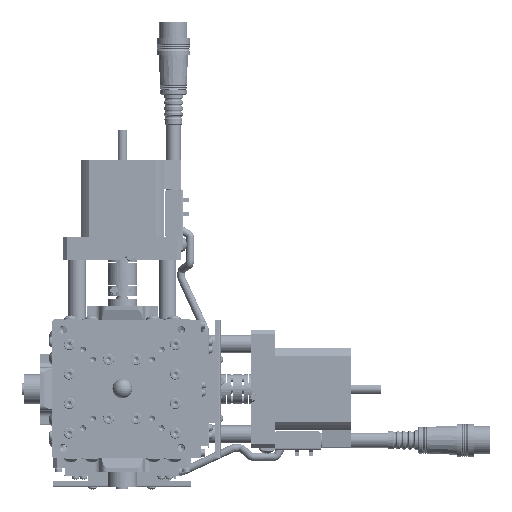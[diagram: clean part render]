
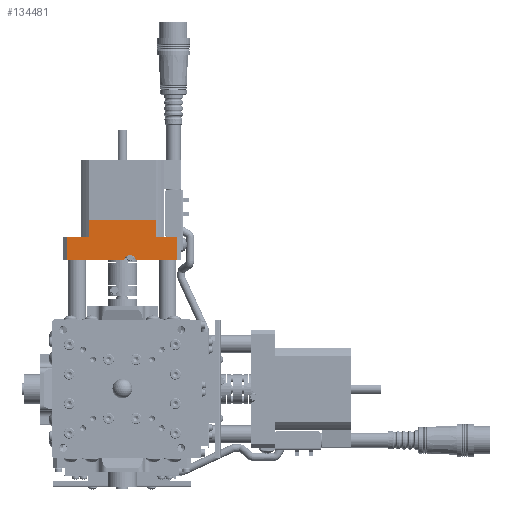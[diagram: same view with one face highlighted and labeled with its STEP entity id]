
A CAD part, top view. The second image highlights one B-rep face of the part: STEP entity #134481.
In plain terms, the highlighted planar face has unit normal (0, 0, 1).
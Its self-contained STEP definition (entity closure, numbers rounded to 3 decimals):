
#466 = LINE ( 'NONE', #97250, #4420 ) ;
#1448 = DIRECTION ( 'NONE',  ( -1., 0., 0. ) ) ;
#4420 = VECTOR ( 'NONE', #72349, 1000. ) ;
#10905 = EDGE_CURVE ( 'NONE', #79914, #13699, #123778, .T. ) ;
#10980 = CARTESIAN_POINT ( 'NONE',  ( -9.982, -8.029, 293.578 ) ) ;
#11169 = EDGE_CURVE ( 'NONE', #37691, #59744, #466, .T. ) ;
#11371 = EDGE_CURVE ( 'NONE', #37691, #54945, #47904, .T. ) ;
#11785 = FACE_OUTER_BOUND ( 'NONE', #45957, .T. ) ;
#13249 = DIRECTION ( 'NONE',  ( -1., 0., 0. ) ) ;
#13699 = VERTEX_POINT ( 'NONE', #54461 ) ;
#14104 = VECTOR ( 'NONE', #112998, 1000. ) ;
#18131 = ORIENTED_EDGE ( 'NONE', *, *, #69163, .T. ) ;
#23711 = CARTESIAN_POINT ( 'NONE',  ( -24.432, -25., 293.578 ) ) ;
#24069 = CARTESIAN_POINT ( 'NONE',  ( -30.432, -25., 293.578 ) ) ;
#27398 = DIRECTION ( 'NONE',  ( -1., 0., 0. ) ) ;
#29665 = VECTOR ( 'NONE', #136954, 1000. ) ;
#37691 = VERTEX_POINT ( 'NONE', #99945 ) ;
#38100 = CARTESIAN_POINT ( 'NONE',  ( -18.432, -41.971, 293.578 ) ) ;
#44021 = EDGE_CURVE ( 'NONE', #53866, #67649, #131054, .T. ) ;
#44455 = CARTESIAN_POINT ( 'NONE',  ( -18.432, -53., 293.578 ) ) ;
#45957 = EDGE_LOOP ( 'NONE', ( #146077, #99213, #60187, #18131, #139217, #144368, #46884, #144149, #162115, #160210 ) ) ;
#46884 = ORIENTED_EDGE ( 'NONE', *, *, #70789, .F. ) ;
#47904 = CIRCLE ( 'NONE', #156514, 3. ) ;
#53866 = VERTEX_POINT ( 'NONE', #38100 ) ;
#54461 = CARTESIAN_POINT ( 'NONE',  ( -18.432, -8.029, 293.578 ) ) ;
#54945 = VERTEX_POINT ( 'NONE', #137279 ) ;
#59744 = VERTEX_POINT ( 'NONE', #127011 ) ;
#60187 = ORIENTED_EDGE ( 'NONE', *, *, #87766, .F. ) ;
#63514 = VERTEX_POINT ( 'NONE', #112761 ) ;
#64467 = DIRECTION ( 'NONE',  ( 0., 0., -1. ) ) ;
#67649 = VERTEX_POINT ( 'NONE', #44455 ) ;
#69163 = EDGE_CURVE ( 'NONE', #162654, #67649, #118299, .T. ) ;
#70789 = EDGE_CURVE ( 'NONE', #108176, #63514, #113477, .T. ) ;
#72349 = DIRECTION ( 'NONE',  ( 0., 1., 0. ) ) ;
#73808 = DIRECTION ( 'NONE',  ( 0., 0., 1. ) ) ;
#74213 = CARTESIAN_POINT ( 'NONE',  ( -18.432, -25., 293.578 ) ) ;
#78659 = VECTOR ( 'NONE', #13249, 1000. ) ;
#79914 = VERTEX_POINT ( 'NONE', #92791 ) ;
#80525 = VECTOR ( 'NONE', #111736, 1000. ) ;
#87613 = PLANE ( 'NONE',  #92778 ) ;
#87766 = EDGE_CURVE ( 'NONE', #162654, #54945, #119570, .T. ) ;
#90164 = CARTESIAN_POINT ( 'NONE',  ( -9.982, -8.029, 293.578 ) ) ;
#92129 = VECTOR ( 'NONE', #27398, 1000. ) ;
#92778 = AXIS2_PLACEMENT_3D ( 'NONE', #23711, #73808, #125941 ) ;
#92791 = CARTESIAN_POINT ( 'NONE',  ( -18.432, 3., 293.578 ) ) ;
#97250 = CARTESIAN_POINT ( 'NONE',  ( -30.432, -25., 293.578 ) ) ;
#98391 = CARTESIAN_POINT ( 'NONE',  ( -24.432, -53., 293.578 ) ) ;
#99213 = ORIENTED_EDGE ( 'NONE', *, *, #11371, .T. ) ;
#99945 = CARTESIAN_POINT ( 'NONE',  ( -30.432, -26.042, 293.578 ) ) ;
#102563 = CARTESIAN_POINT ( 'NONE',  ( -24.432, 3., 293.578 ) ) ;
#104644 = CARTESIAN_POINT ( 'NONE',  ( -18.432, -25., 293.578 ) ) ;
#104993 = DIRECTION ( 'NONE',  ( 1., 0., 0. ) ) ;
#108176 = VERTEX_POINT ( 'NONE', #118575 ) ;
#109475 = VECTOR ( 'NONE', #111566, 1000. ) ;
#111566 = DIRECTION ( 'NONE',  ( 0., -1., 0. ) ) ;
#111736 = DIRECTION ( 'NONE',  ( 1., 0., 0. ) ) ;
#112761 = CARTESIAN_POINT ( 'NONE',  ( -9.982, -41.971, 293.578 ) ) ;
#112855 = LINE ( 'NONE', #102563, #114958 ) ;
#112998 = DIRECTION ( 'NONE',  ( 0., 1., 0. ) ) ;
#113477 = LINE ( 'NONE', #10980, #109475 ) ;
#114958 = VECTOR ( 'NONE', #1448, 1000. ) ;
#116092 = CARTESIAN_POINT ( 'NONE',  ( -9.982, -41.971, 293.578 ) ) ;
#118299 = LINE ( 'NONE', #98391, #80525 ) ;
#118344 = LINE ( 'NONE', #116092, #78659 ) ;
#118575 = CARTESIAN_POINT ( 'NONE',  ( -9.982, -8.029, 293.578 ) ) ;
#119570 = LINE ( 'NONE', #24069, #14104 ) ;
#120757 = EDGE_CURVE ( 'NONE', #63514, #53866, #118344, .T. ) ;
#123778 = LINE ( 'NONE', #104644, #129675 ) ;
#125941 = DIRECTION ( 'NONE',  ( -1., 0., 0. ) ) ;
#127011 = CARTESIAN_POINT ( 'NONE',  ( -30.432, 3., 293.578 ) ) ;
#129675 = VECTOR ( 'NONE', #130143, 1000. ) ;
#130143 = DIRECTION ( 'NONE',  ( 0., -1., 0. ) ) ;
#131054 = LINE ( 'NONE', #74213, #29665 ) ;
#131867 = EDGE_CURVE ( 'NONE', #108176, #13699, #141897, .T. ) ;
#134481 = ADVANCED_FACE ( 'NONE', ( #11785 ), #87613, .T. ) ;
#136954 = DIRECTION ( 'NONE',  ( 0., -1., 0. ) ) ;
#137279 = CARTESIAN_POINT ( 'NONE',  ( -30.432, -31.958, 293.578 ) ) ;
#139217 = ORIENTED_EDGE ( 'NONE', *, *, #44021, .F. ) ;
#141617 = CARTESIAN_POINT ( 'NONE',  ( -30.932, -29., 293.578 ) ) ;
#141897 = LINE ( 'NONE', #90164, #92129 ) ;
#143566 = EDGE_CURVE ( 'NONE', #79914, #59744, #112855, .T. ) ;
#144149 = ORIENTED_EDGE ( 'NONE', *, *, #131867, .T. ) ;
#144368 = ORIENTED_EDGE ( 'NONE', *, *, #120757, .F. ) ;
#144804 = CARTESIAN_POINT ( 'NONE',  ( -30.432, -53., 293.578 ) ) ;
#146077 = ORIENTED_EDGE ( 'NONE', *, *, #11169, .F. ) ;
#156514 = AXIS2_PLACEMENT_3D ( 'NONE', #141617, #64467, #104993 ) ;
#160210 = ORIENTED_EDGE ( 'NONE', *, *, #143566, .T. ) ;
#162115 = ORIENTED_EDGE ( 'NONE', *, *, #10905, .F. ) ;
#162654 = VERTEX_POINT ( 'NONE', #144804 ) ;
